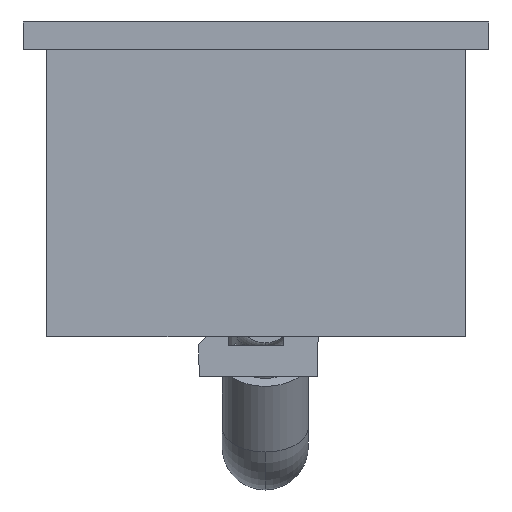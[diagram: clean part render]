
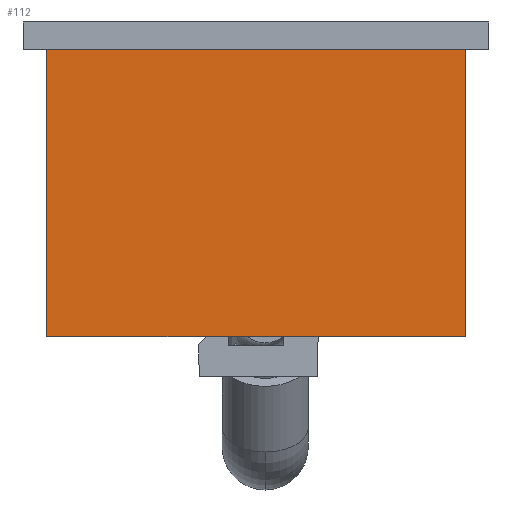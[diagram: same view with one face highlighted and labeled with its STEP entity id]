
A CAD part, left-side view. The second image highlights one B-rep face of the part: STEP entity #112.
In plain terms, the highlighted planar face has unit normal (-1, 0, 0).
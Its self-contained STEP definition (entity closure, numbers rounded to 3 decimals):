
#112 = ADVANCED_FACE( '', ( #199 ), #200, .T. );
#199 = FACE_OUTER_BOUND( '', #295, .T. );
#200 = PLANE( '', #296 );
#295 = EDGE_LOOP( '', ( #608, #609, #610, #611 ) );
#296 = AXIS2_PLACEMENT_3D( '', #612, #613, #614 );
#608 = ORIENTED_EDGE( '', *, *, #766, .T. );
#609 = ORIENTED_EDGE( '', *, *, #772, .T. );
#610 = ORIENTED_EDGE( '', *, *, #762, .T. );
#611 = ORIENTED_EDGE( '', *, *, #773, .F. );
#612 = CARTESIAN_POINT( '', ( 1.53, 15.165, -20.5 ) );
#613 = DIRECTION( '', ( -1., 0., 0. ) );
#614 = DIRECTION( '', ( 0., 0., -1. ) );
#762 = EDGE_CURVE( '', #934, #932, #935, .T. );
#766 = EDGE_CURVE( '', #942, #940, #943, .T. );
#772 = EDGE_CURVE( '', #940, #934, #953, .T. );
#773 = EDGE_CURVE( '', #942, #932, #954, .T. );
#932 = VERTEX_POINT( '', #1244 );
#934 = VERTEX_POINT( '', #1247 );
#935 = LINE( '', #1248, #1249 );
#940 = VERTEX_POINT( '', #1256 );
#942 = VERTEX_POINT( '', #1259 );
#943 = LINE( '', #1260, #1261 );
#953 = LINE( '', #1276, #1277 );
#954 = LINE( '', #1278, #1279 );
#1244 = CARTESIAN_POINT( '', ( 1.53, -13.65, -1.8 ) );
#1247 = CARTESIAN_POINT( '', ( 1.53, -13.65, -20.5 ) );
#1248 = CARTESIAN_POINT( '', ( 1.53, -13.65, -11.15 ) );
#1249 = VECTOR( '', #1460, 1. );
#1256 = CARTESIAN_POINT( '', ( 1.53, 13.63, -20.5 ) );
#1259 = CARTESIAN_POINT( '', ( 1.53, 13.63, -1.8 ) );
#1260 = CARTESIAN_POINT( '', ( 1.53, 13.63, -20.5 ) );
#1261 = VECTOR( '', #1464, 1. );
#1276 = CARTESIAN_POINT( '', ( 1.53, 15.165, -20.5 ) );
#1277 = VECTOR( '', #1470, 1. );
#1278 = CARTESIAN_POINT( '', ( 1.53, 15.165, -1.8 ) );
#1279 = VECTOR( '', #1471, 1. );
#1460 = DIRECTION( '', ( 0., 0., 1. ) );
#1464 = DIRECTION( '', ( 0., 0., -1. ) );
#1470 = DIRECTION( '', ( 0., -1., 0. ) );
#1471 = DIRECTION( '', ( 0., -1., 0. ) );
